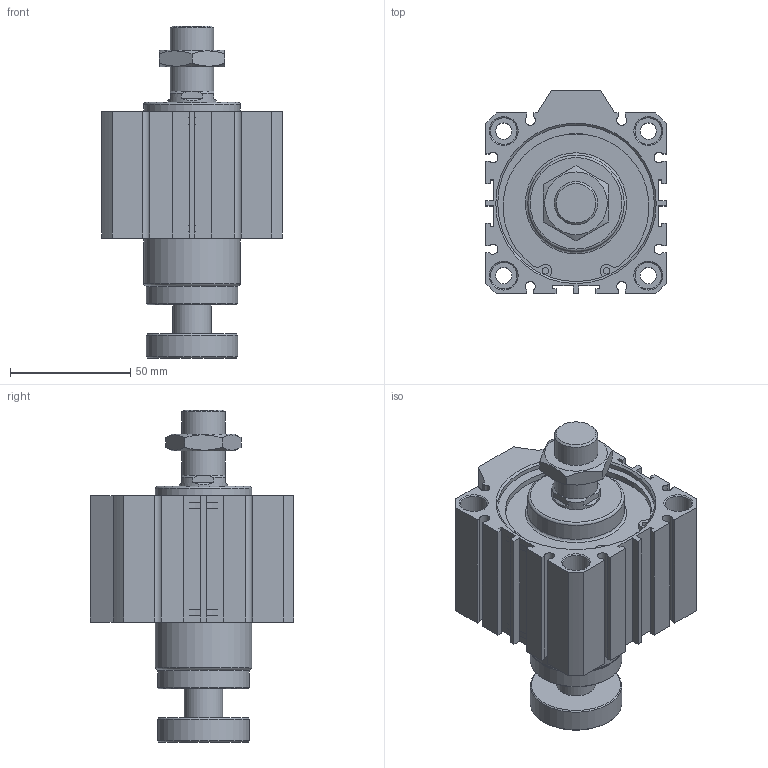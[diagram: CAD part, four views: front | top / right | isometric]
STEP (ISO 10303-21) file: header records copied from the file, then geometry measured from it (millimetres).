
FILE_DESCRIPTION((''),'2;1');
FILE_NAME('I:\3D電子目錄\氣缸\JDAR\JDAR-BS\JDAR63-BS\JDAR63x10-BS.stp','2007-05-05T14:37:38',('662F206'),(''),'Autodesk Inventor 11','Autodesk Inventor 11','');
FILE_SCHEMA(('AUTOMOTIVE_DESIGN { 1 0 10303 214 1 1 1 1 }'));
Length unit declared in the file: millimetre
Products named in the file (3): JDAR63-BS; R 形環 65
Assembly tree (3 placements, depth 2):
  JDAR63-BS
    JDAR63-BS
    R 形環 65  x2
Bounding box: 75 x 84.5 x 137.8 mm (x, y, z)
Volume: 320384.1 mm3; surface area: 59595.5 mm2
Topology: 3 solids, 3 shells, 203 faces, 490 edges, 319 vertices
Faces by surface type: plane 118, cylinder 56, cone 25, bspline 2, torus 2
Full cylindrical faces by diameter (mm): 2.7 x4, 3 x2, 6.8 x4, 11 x8, 16 x1, 18 x2, 20 x1, 38 x2, 40 x2, 65 x4, 68 x2
Entity records: 5389 total; most frequent: CARTESIAN_POINT 1017, DIRECTION 902, ORIENTED_EDGE 798, EDGE_CURVE 399, AXIS2_PLACEMENT_3D 328, VERTEX_POINT 293, EDGE_LOOP 284, VECTOR 246
